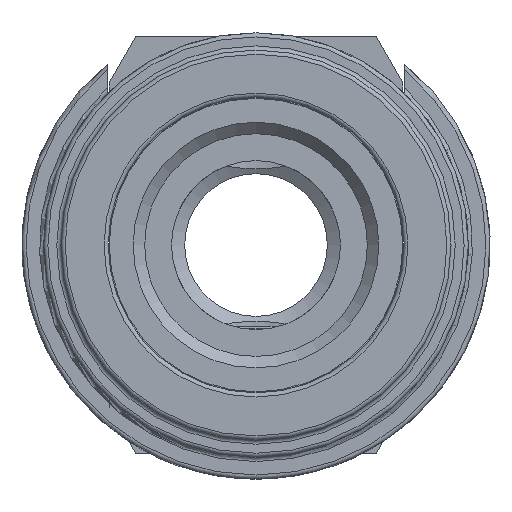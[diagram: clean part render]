
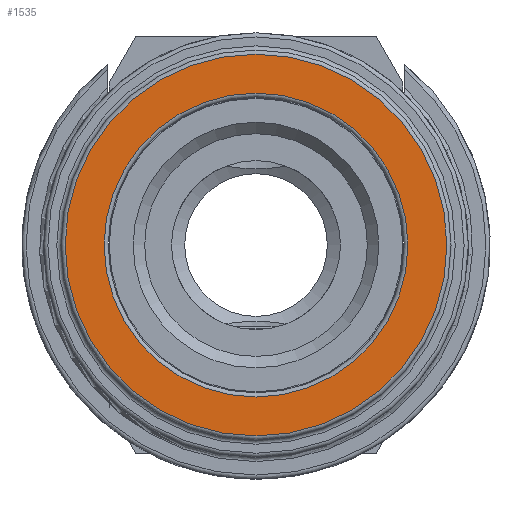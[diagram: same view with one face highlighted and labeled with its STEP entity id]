
A CAD part, front view. The second image highlights one B-rep face of the part: STEP entity #1535.
In plain terms, the highlighted planar face has unit normal (0, -1, 0).
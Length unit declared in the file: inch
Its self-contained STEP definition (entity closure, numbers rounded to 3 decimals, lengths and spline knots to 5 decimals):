
#299=FACE_BOUND('',#417,.T.);
#330=FACE_OUTER_BOUND('',#416,.T.);
#416=EDGE_LOOP('',(#1110,#1111));
#417=EDGE_LOOP('',(#1112,#1113));
#522=CIRCLE('',#1676,0.365);
#523=CIRCLE('',#1677,0.365);
#525=CIRCLE('',#1680,0.4585);
#526=CIRCLE('',#1681,0.4585);
#644=VERTEX_POINT('',#2495);
#645=VERTEX_POINT('',#2497);
#646=VERTEX_POINT('',#2502);
#647=VERTEX_POINT('',#2503);
#823=EDGE_CURVE('',#644,#645,#522,.T.);
#824=EDGE_CURVE('',#645,#644,#523,.T.);
#826=EDGE_CURVE('',#646,#647,#525,.T.);
#827=EDGE_CURVE('',#647,#646,#526,.T.);
#1110=ORIENTED_EDGE('',*,*,#826,.F.);
#1111=ORIENTED_EDGE('',*,*,#827,.F.);
#1112=ORIENTED_EDGE('',*,*,#824,.F.);
#1113=ORIENTED_EDGE('',*,*,#823,.F.);
#1489=PLANE('',#1679);
#1535=ADVANCED_FACE('',(#330,#299),#1489,.T.);
#1676=AXIS2_PLACEMENT_3D('',#2498,#1954,#1955);
#1677=AXIS2_PLACEMENT_3D('',#2499,#1956,#1957);
#1679=AXIS2_PLACEMENT_3D('',#2501,#1960,#1961);
#1680=AXIS2_PLACEMENT_3D('',#2504,#1962,#1963);
#1681=AXIS2_PLACEMENT_3D('',#2505,#1964,#1965);
#1954=DIRECTION('center_axis',(0.,-1.,0.));
#1955=DIRECTION('ref_axis',(0.,0.,1.));
#1956=DIRECTION('center_axis',(0.,-1.,0.));
#1957=DIRECTION('ref_axis',(0.,0.,1.));
#1960=DIRECTION('center_axis',(0.,-1.,0.));
#1961=DIRECTION('ref_axis',(0.,0.,-1.));
#1962=DIRECTION('center_axis',(0.,1.,0.));
#1963=DIRECTION('ref_axis',(0.,0.,1.));
#1964=DIRECTION('center_axis',(0.,1.,0.));
#1965=DIRECTION('ref_axis',(0.,0.,1.));
#2495=CARTESIAN_POINT('',(0.,0.,0.365));
#2497=CARTESIAN_POINT('',(0.,0.,-0.365));
#2498=CARTESIAN_POINT('Origin',(0.,0.,0.));
#2499=CARTESIAN_POINT('Origin',(0.,0.,0.));
#2501=CARTESIAN_POINT('Origin',(0.,0.,-0.355));
#2502=CARTESIAN_POINT('',(0.,0.,-0.4585));
#2503=CARTESIAN_POINT('',(0.,0.,0.4585));
#2504=CARTESIAN_POINT('Origin',(0.,0.,0.));
#2505=CARTESIAN_POINT('Origin',(0.,0.,0.));
